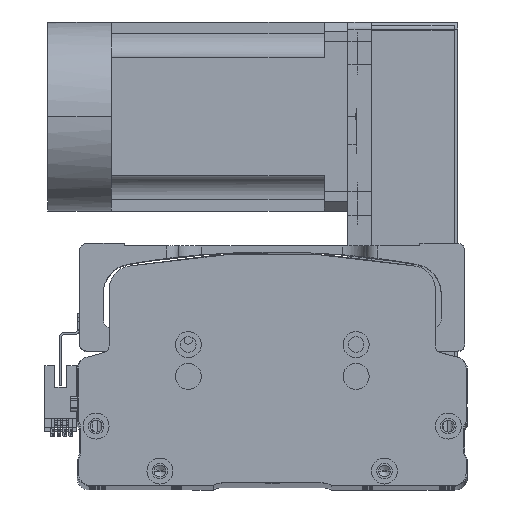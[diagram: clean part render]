
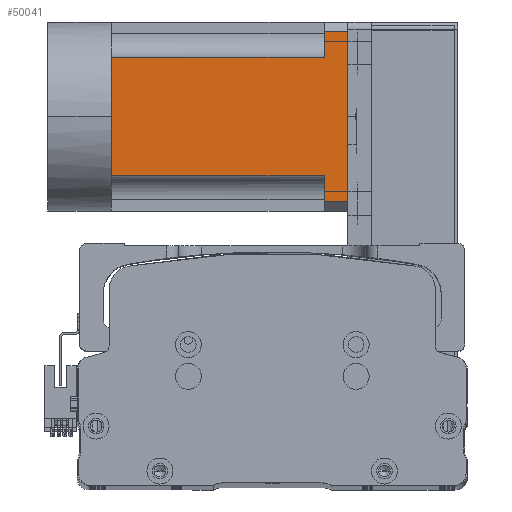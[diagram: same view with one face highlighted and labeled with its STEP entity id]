
A CAD part, top view. The second image highlights one B-rep face of the part: STEP entity #50041.
In plain terms, the highlighted planar face has unit normal (0, 0, 1) as drawn and (0, 0, -1) by its records, which use the part's own axes.
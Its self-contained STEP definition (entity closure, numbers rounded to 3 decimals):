
#21 = DIRECTION ( 'NONE',  ( -1., 0., 0. ) ) ;
#421 = CARTESIAN_POINT ( 'NONE',  ( 25., -27., -40. ) ) ;
#1166 = ORIENTED_EDGE ( 'NONE', *, *, #55526, .T. ) ;
#1510 = DIRECTION ( 'NONE',  ( -1., 0., 0. ) ) ;
#2056 = CARTESIAN_POINT ( 'NONE',  ( 25., 90., -40. ) ) ;
#2437 = VERTEX_POINT ( 'NONE', #63838 ) ;
#3318 = DIRECTION ( 'NONE',  ( 0., 1., 0. ) ) ;
#3382 = CARTESIAN_POINT ( 'NONE',  ( -25., 90., -40. ) ) ;
#4416 = CARTESIAN_POINT ( 'NONE',  ( -40., 0., -40. ) ) ;
#6779 = VERTEX_POINT ( 'NONE', #57744 ) ;
#7705 = VECTOR ( 'NONE', #43305, 1000. ) ;
#7755 = ORIENTED_EDGE ( 'NONE', *, *, #44404, .T. ) ;
#8418 = CARTESIAN_POINT ( 'NONE',  ( -40., 90., -40. ) ) ;
#10217 = LINE ( 'NONE', #47850, #61722 ) ;
#11021 = VERTEX_POINT ( 'NONE', #3382 ) ;
#11698 = LINE ( 'NONE', #23157, #49919 ) ;
#11858 = VECTOR ( 'NONE', #39282, 1000. ) ;
#12989 = EDGE_CURVE ( 'NONE', #29976, #31899, #26376, .T. ) ;
#13301 = CARTESIAN_POINT ( 'NONE',  ( -25., -27., -40. ) ) ;
#13525 = LINE ( 'NONE', #421, #54912 ) ;
#16414 = VERTEX_POINT ( 'NONE', #19841 ) ;
#19841 = CARTESIAN_POINT ( 'NONE',  ( -25., 0., -40. ) ) ;
#20449 = DIRECTION ( 'NONE',  ( -1., 0., 0. ) ) ;
#21333 = EDGE_CURVE ( 'NONE', #37888, #2437, #11698, .T. ) ;
#21606 = ORIENTED_EDGE ( 'NONE', *, *, #25942, .T. ) ;
#21900 = EDGE_CURVE ( 'NONE', #2437, #25679, #47481, .T. ) ;
#23157 = CARTESIAN_POINT ( 'NONE',  ( 36., -27., -40. ) ) ;
#25679 = VERTEX_POINT ( 'NONE', #2056 ) ;
#25942 = EDGE_CURVE ( 'NONE', #31465, #6779, #51659, .T. ) ;
#25974 = CARTESIAN_POINT ( 'NONE',  ( -36., 90., -40. ) ) ;
#26376 = LINE ( 'NONE', #27116, #64629 ) ;
#27116 = CARTESIAN_POINT ( 'NONE',  ( -36., -27., -40. ) ) ;
#27551 = ORIENTED_EDGE ( 'NONE', *, *, #35806, .T. ) ;
#29938 = ORIENTED_EDGE ( 'NONE', *, *, #52819, .F. ) ;
#29976 = VERTEX_POINT ( 'NONE', #25974 ) ;
#30704 = VECTOR ( 'NONE', #20449, 1000. ) ;
#31367 = DIRECTION ( 'NONE',  ( 0., 0., -1. ) ) ;
#31432 = ORIENTED_EDGE ( 'NONE', *, *, #21333, .T. ) ;
#31465 = VERTEX_POINT ( 'NONE', #34468 ) ;
#31899 = VERTEX_POINT ( 'NONE', #39232 ) ;
#34468 = CARTESIAN_POINT ( 'NONE',  ( 25., 0., -40. ) ) ;
#35270 = DIRECTION ( 'NONE',  ( 0., -1., 0. ) ) ;
#35514 = CARTESIAN_POINT ( 'NONE',  ( -40., 90., -40. ) ) ;
#35806 = EDGE_CURVE ( 'NONE', #16414, #11021, #37498, .T. ) ;
#36457 = LINE ( 'NONE', #44685, #61405 ) ;
#36871 = EDGE_LOOP ( 'NONE', ( #29938, #31432, #43448, #57520, #21606, #1166, #27551, #7755, #52135 ) ) ;
#37498 = LINE ( 'NONE', #13301, #62464 ) ;
#37888 = VERTEX_POINT ( 'NONE', #38363 ) ;
#38363 = CARTESIAN_POINT ( 'NONE',  ( 36., 100., -40. ) ) ;
#39232 = CARTESIAN_POINT ( 'NONE',  ( -36., 100., -40. ) ) ;
#39282 = DIRECTION ( 'NONE',  ( -1., 0., 0. ) ) ;
#43305 = DIRECTION ( 'NONE',  ( -1., 0., 0. ) ) ;
#43448 = ORIENTED_EDGE ( 'NONE', *, *, #21900, .T. ) ;
#44404 = EDGE_CURVE ( 'NONE', #11021, #29976, #45475, .T. ) ;
#44470 = FACE_OUTER_BOUND ( 'NONE', #36871, .T. ) ;
#44685 = CARTESIAN_POINT ( 'NONE',  ( -40., 100., -40. ) ) ;
#45475 = LINE ( 'NONE', #35514, #30704 ) ;
#46148 = CARTESIAN_POINT ( 'NONE',  ( -40., -27., -40. ) ) ;
#47481 = LINE ( 'NONE', #8418, #7705 ) ;
#47850 = CARTESIAN_POINT ( 'NONE',  ( -40., 0., -40. ) ) ;
#48060 = DIRECTION ( 'NONE',  ( -1., 0., 0. ) ) ;
#49919 = VECTOR ( 'NONE', #58025, 1000. ) ;
#50041 = ADVANCED_FACE ( 'NONE', ( #44470 ), #51220, .T. ) ;
#51220 = PLANE ( 'NONE',  #64657 ) ;
#51659 = LINE ( 'NONE', #4416, #11858 ) ;
#51978 = DIRECTION ( 'NONE',  ( 0., 1., 0. ) ) ;
#52135 = ORIENTED_EDGE ( 'NONE', *, *, #12989, .T. ) ;
#52819 = EDGE_CURVE ( 'NONE', #37888, #31899, #36457, .T. ) ;
#54912 = VECTOR ( 'NONE', #35270, 1000. ) ;
#55526 = EDGE_CURVE ( 'NONE', #6779, #16414, #10217, .T. ) ;
#56786 = EDGE_CURVE ( 'NONE', #25679, #31465, #13525, .T. ) ;
#57520 = ORIENTED_EDGE ( 'NONE', *, *, #56786, .T. ) ;
#57744 = CARTESIAN_POINT ( 'NONE',  ( 0., 0., -40. ) ) ;
#58025 = DIRECTION ( 'NONE',  ( 0., -1., 0. ) ) ;
#61405 = VECTOR ( 'NONE', #21, 1000. ) ;
#61722 = VECTOR ( 'NONE', #48060, 1000. ) ;
#62464 = VECTOR ( 'NONE', #3318, 1000. ) ;
#63838 = CARTESIAN_POINT ( 'NONE',  ( 36., 90., -40. ) ) ;
#64629 = VECTOR ( 'NONE', #51978, 1000. ) ;
#64657 = AXIS2_PLACEMENT_3D ( 'NONE', #46148, #31367, #1510 ) ;
